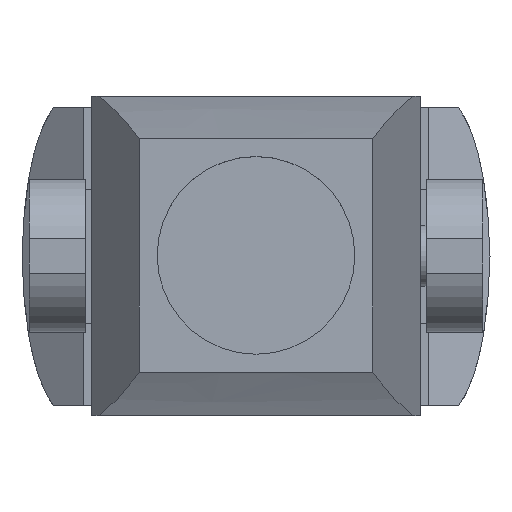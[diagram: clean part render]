
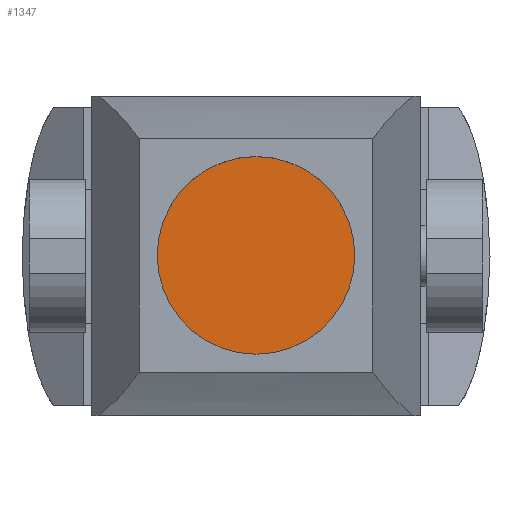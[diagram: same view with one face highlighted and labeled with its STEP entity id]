
A CAD part, top view. The second image highlights one B-rep face of the part: STEP entity #1347.
In plain terms, the highlighted planar face has unit normal (0, 0, 1).
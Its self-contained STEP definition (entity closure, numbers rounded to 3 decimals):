
#104=PLANE('',#1556);
#177=FACE_OUTER_BOUND('',#258,.T.);
#258=EDGE_LOOP('',(#1199));
#589=CIRCLE('',#1554,81.581);
#687=VERTEX_POINT('',#2498);
#861=EDGE_CURVE('',#687,#687,#589,.T.);
#1199=ORIENTED_EDGE('',*,*,#861,.T.);
#1347=ADVANCED_FACE('',(#177),#104,.T.);
#1554=AXIS2_PLACEMENT_3D('',#2499,#1864,#1865);
#1556=AXIS2_PLACEMENT_3D('',#2503,#1869,#1870);
#1864=DIRECTION('center_axis',(0.,0.,1.));
#1865=DIRECTION('ref_axis',(-1.,0.,0.));
#1869=DIRECTION('center_axis',(0.,0.,1.));
#1870=DIRECTION('ref_axis',(-1.,0.,0.));
#2498=CARTESIAN_POINT('',(81.581,0.,703.3));
#2499=CARTESIAN_POINT('Origin',(0.,0.,
703.3));
#2503=CARTESIAN_POINT('Origin',(0.,0.,
703.3));
